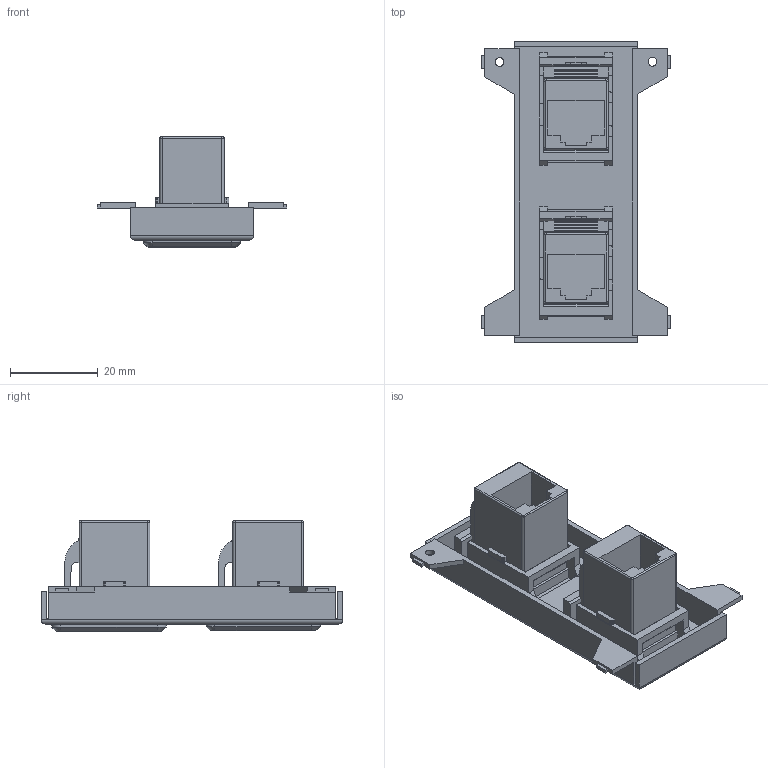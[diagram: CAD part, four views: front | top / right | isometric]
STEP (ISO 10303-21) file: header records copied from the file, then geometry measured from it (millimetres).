
FILE_DESCRIPTION(('FreeCAD Model'),'2;1');
FILE_NAME('Open CASCADE Shape Model','2026-09-15T11:44:54',(''),(''), 'Open CASCADE STEP processor 7.8','FreeCAD','Unknown');
FILE_SCHEMA(('AUTOMOTIVE_DESIGN { 1 0 10303 214 1 1 1 1 }'));
Length unit declared in the file: millimetre
Products named in the file (7): BTK_2SIC6_WH; 3013AJIC6WH_SD; P_201796; P-201796; TB-037_3013BUS12xx_SD; TB-037_3013BUS12xx_SD001; 3013AJIC6WH_SD001
Assembly tree (6 placements, depth 3):
  BTK_2SIC6_WH
    3013AJIC6WH_SD
    P_201796
      P-201796
      TB-037_3013BUS12xx_SD
      TB-037_3013BUS12xx_SD001
    3013AJIC6WH_SD001
Bounding box: 43.2 x 68.7 x 25.1 mm (x, y, z)
Volume: 12752.1 mm3; surface area: 16191.5 mm2
Topology: 5 solids, 5 shells, 565 faces, 1537 edges, 990 vertices
Faces by surface type: bspline 496, plane 55, cylinder 14
Full cylindrical faces by diameter (mm): 2 x2
Entity records: 23390 total; most frequent: CARTESIAN_POINT 13199, ORIENTED_EDGE 3074, EDGE_CURVE 1537, B_SPLINE_CURVE_WITH_KNOTS 1340, VERTEX_POINT 990, FACE_BOUND 593, EDGE_LOOP 593, ADVANCED_FACE 565
